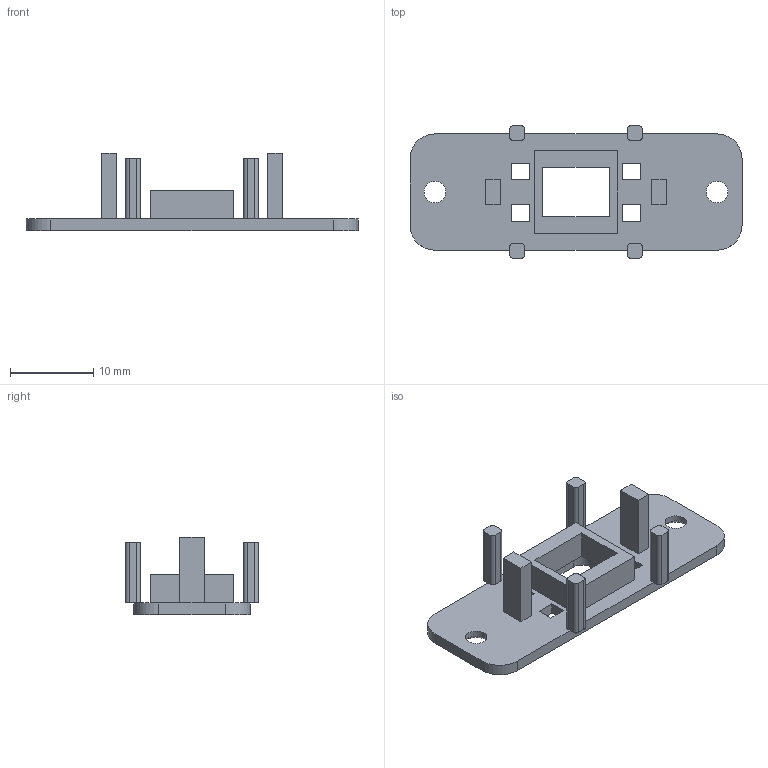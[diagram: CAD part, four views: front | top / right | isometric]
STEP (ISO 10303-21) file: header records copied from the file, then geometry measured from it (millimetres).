
FILE_DESCRIPTION(/* description */ (''),/* implementation_level */ '2;1');
FILE_NAME(/* name */ 'C28_R3_Front_Switch_Clamp_Adjustable_Seat_And_Stops.step',/* time_stamp */ '2026-09-10T17:48:24-07:00',/* author */ (''),/* organization */ (''),/* preprocessor_version */ 'ST-DEVELOPER v20.1',/* originating_system */ 'Autodesk Translation Framework v15.8.0.0',/* authorisation */ '');
FILE_SCHEMA (('AUTOMOTIVE_DESIGN { 1 0 10303 214 3 1 1 }'));
Length unit declared in the file: millimetre
Products named in the file (1): 2026-09-10-17-48-23-992
Bounding box: 40 x 16 x 9.3 mm (x, y, z)
Volume: 995.2 mm3; surface area: 1785 mm2
Topology: 1 solids, 1 shells, 98 faces, 268 edges, 176 vertices
Faces by surface type: plane 70, cylinder 26, cone 2
Full cylindrical faces by diameter (mm): 2.6 x2
Entity records: 3145 total; most frequent: CARTESIAN_POINT 543, ORIENTED_EDGE 536, DIRECTION 522, EDGE_CURVE 268, LINE 212, VECTOR 212, VERTEX_POINT 176, AXIS2_PLACEMENT_3D 155
